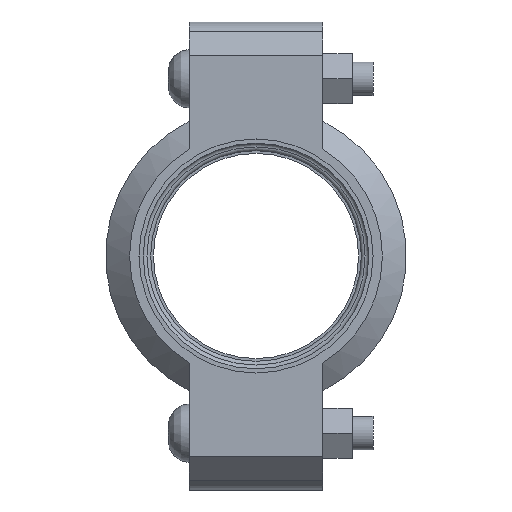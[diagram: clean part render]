
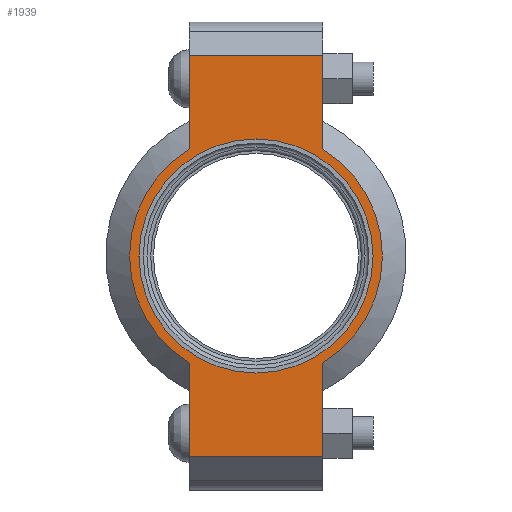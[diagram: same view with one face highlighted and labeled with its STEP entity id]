
A CAD part, left-side view. The second image highlights one B-rep face of the part: STEP entity #1939.
In plain terms, the highlighted planar face has unit normal (-1, 0, 0) as drawn and (0, 0, 1) by its records, which use the part's own axes.
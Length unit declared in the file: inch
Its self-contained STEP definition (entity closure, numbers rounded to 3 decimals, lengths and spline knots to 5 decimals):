
#128=LINE('',#3437,#225);
#136=LINE('',#3473,#233);
#143=LINE('',#3494,#240);
#152=LINE('',#3526,#249);
#153=LINE('',#3530,#250);
#154=LINE('',#3532,#251);
#225=VECTOR('',#2805,0.3937);
#233=VECTOR('',#2821,0.3937);
#240=VECTOR('',#2840,0.3937);
#249=VECTOR('',#2865,0.3937);
#250=VECTOR('',#2870,0.3937);
#251=VECTOR('',#2871,0.3937);
#307=FACE_BOUND('',#557,.T.);
#351=PLANE('',#2278);
#439=FACE_OUTER_BOUND('',#556,.T.);
#556=EDGE_LOOP('',(#1660,#1661,#1662,#1663,#1664,#1665,#1666,#1667));
#557=EDGE_LOOP('',(#1668));
#729=CIRCLE('',#2279,1.89);
#730=CIRCLE('',#2280,1.89);
#731=CIRCLE('',#2281,1.75);
#893=VERTEX_POINT('',#3434);
#894=VERTEX_POINT('',#3436);
#905=VERTEX_POINT('',#3468);
#906=VERTEX_POINT('',#3472);
#913=VERTEX_POINT('',#3491);
#914=VERTEX_POINT('',#3493);
#924=VERTEX_POINT('',#3529);
#925=VERTEX_POINT('',#3531);
#926=VERTEX_POINT('',#3534);
#1138=EDGE_CURVE('',#894,#893,#128,.T.);
#1152=EDGE_CURVE('',#906,#905,#136,.T.);
#1162=EDGE_CURVE('',#914,#913,#143,.T.);
#1177=EDGE_CURVE('',#906,#893,#152,.T.);
#1178=EDGE_CURVE('',#905,#914,#729,.T.);
#1179=EDGE_CURVE('',#924,#913,#153,.T.);
#1180=EDGE_CURVE('',#924,#925,#154,.T.);
#1181=EDGE_CURVE('',#925,#894,#730,.T.);
#1182=EDGE_CURVE('',#926,#926,#731,.T.);
#1660=ORIENTED_EDGE('',*,*,#1177,.F.);
#1661=ORIENTED_EDGE('',*,*,#1152,.T.);
#1662=ORIENTED_EDGE('',*,*,#1178,.T.);
#1663=ORIENTED_EDGE('',*,*,#1162,.T.);
#1664=ORIENTED_EDGE('',*,*,#1179,.F.);
#1665=ORIENTED_EDGE('',*,*,#1180,.T.);
#1666=ORIENTED_EDGE('',*,*,#1181,.T.);
#1667=ORIENTED_EDGE('',*,*,#1138,.T.);
#1668=ORIENTED_EDGE('',*,*,#1182,.T.);
#1939=ADVANCED_FACE('',(#439,#307),#351,.T.);
#2278=AXIS2_PLACEMENT_3D('',#3527,#2866,#2867);
#2279=AXIS2_PLACEMENT_3D('',#3528,#2868,#2869);
#2280=AXIS2_PLACEMENT_3D('',#3533,#2872,#2873);
#2281=AXIS2_PLACEMENT_3D('',#3535,#2874,#2875);
#2805=DIRECTION('',(1.,0.,0.));
#2821=DIRECTION('',(-1.,0.,0.));
#2840=DIRECTION('',(-1.,0.,0.));
#2865=DIRECTION('',(0.,-1.,0.));
#2866=DIRECTION('center_axis',(0.,0.,1.));
#2867=DIRECTION('ref_axis',(-1.,0.,0.));
#2868=DIRECTION('center_axis',(0.,0.,1.));
#2869=DIRECTION('ref_axis',(1.,0.,0.));
#2870=DIRECTION('',(0.,1.,0.));
#2871=DIRECTION('',(1.,0.,0.));
#2872=DIRECTION('center_axis',(0.,0.,1.));
#2873=DIRECTION('ref_axis',(1.,0.,0.));
#2874=DIRECTION('center_axis',(0.,0.,-1.));
#2875=DIRECTION('ref_axis',(1.,0.,0.));
#3434=CARTESIAN_POINT('',(3.,-1.,0.94));
#3436=CARTESIAN_POINT('',(1.60378,-1.,0.94));
#3437=CARTESIAN_POINT('',(3.5,-1.,0.94));
#3468=CARTESIAN_POINT('',(1.60378,1.,0.94));
#3472=CARTESIAN_POINT('',(3.,1.,0.94));
#3473=CARTESIAN_POINT('',(-3.5,1.,0.94));
#3491=CARTESIAN_POINT('',(-3.,1.,0.94));
#3493=CARTESIAN_POINT('',(-1.60378,1.,0.94));
#3494=CARTESIAN_POINT('',(-3.5,1.,0.94));
#3526=CARTESIAN_POINT('',(3.,-0.5,0.94));
#3527=CARTESIAN_POINT('Origin',(0.,0.,
0.94));
#3528=CARTESIAN_POINT('Origin',(0.,0.,0.94));
#3529=CARTESIAN_POINT('',(-3.,-1.,0.94));
#3530=CARTESIAN_POINT('',(-3.,0.5,0.94));
#3531=CARTESIAN_POINT('',(-1.60378,-1.,0.94));
#3532=CARTESIAN_POINT('',(3.5,-1.,0.94));
#3533=CARTESIAN_POINT('Origin',(0.,0.,0.94));
#3534=CARTESIAN_POINT('',(-1.75,0.,0.94));
#3535=CARTESIAN_POINT('Origin',(0.,0.,0.94));
